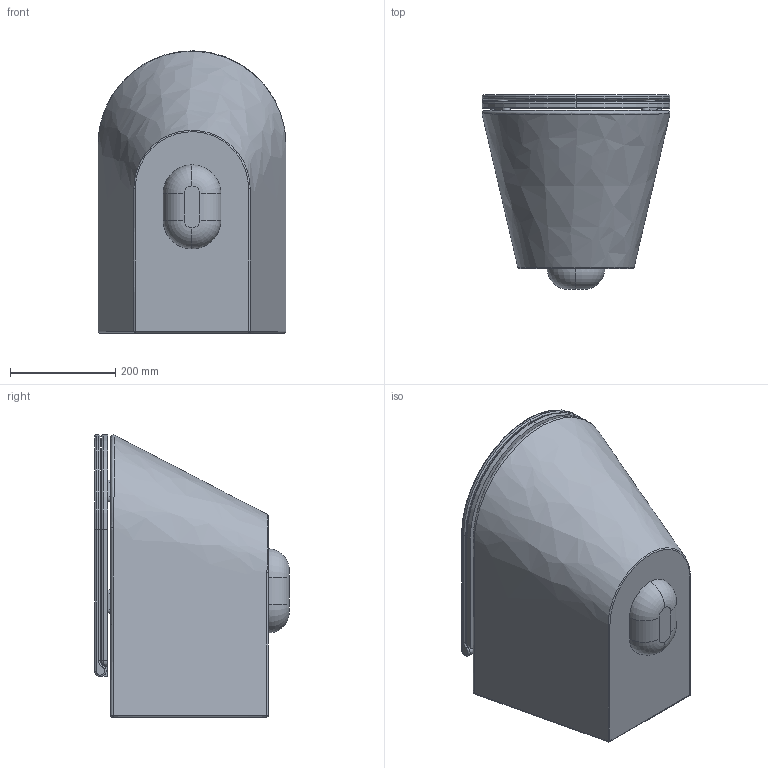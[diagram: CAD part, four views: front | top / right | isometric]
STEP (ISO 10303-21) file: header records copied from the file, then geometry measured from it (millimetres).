
FILE_DESCRIPTION (( 'STEP AP203' ), '1' );
FILE_NAME ('Assieme FORMAWCSOSP.STEP', '2018-09-07T12:37:01', ( '' ), ( '' ), 'SwSTEP 2.0', 'SolidWorks 2018', '' );
FILE_SCHEMA (( 'CONFIG_CONTROL_DESIGN' ));
Length unit declared in the file: millimetre
Products named in the file (3): FORMA WC SOSP prova1; SEDILE FORMA; Assieme FORMAWCSOSP
Assembly tree (2 placements, depth 2):
  Assieme FORMAWCSOSP
    FORMA WC SOSP prova1
    SEDILE FORMA
Bounding box: 357.4 x 370 x 536.79 mm (x, y, z)
Volume: 35109729 mm3; surface area: 1273142.8 mm2
Topology: 2 solids, 2 shells, 128 faces, 303 edges, 185 vertices
Faces by surface type: cylinder 48, plane 41, torus 23, bspline 13, sphere 2, cone 1
Full cylindrical faces by diameter (mm): 16 x2, 20 x4, 55 x1, 100 x1
Entity records: 5494 total; most frequent: CARTESIAN_POINT 2297, DIRECTION 642, ORIENTED_EDGE 578, EDGE_CURVE 289, AXIS2_PLACEMENT_3D 264, VERTEX_POINT 183, EDGE_LOOP 154, CIRCLE 144
